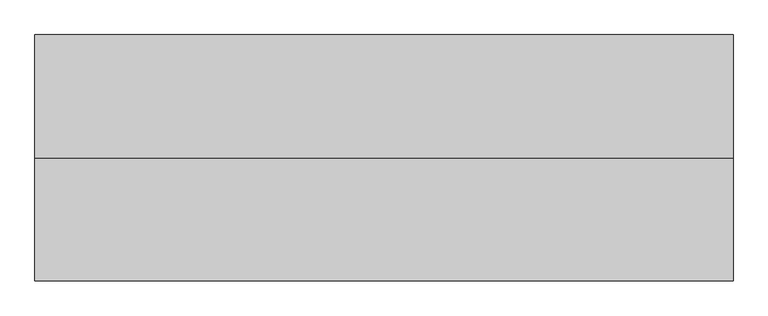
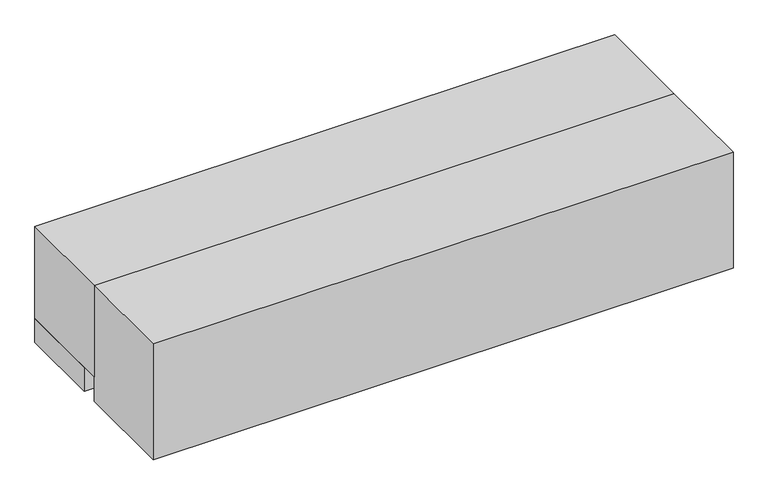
"""IFC4 building model written with IfcOpenShell, lengths in millimetres: proxy geometry, Exposed_Low_Boy_Fan_Coil_Unit Fan_-_LXA_-_IEC_-_4-Pipe_LH_2022 : Size 06 - 277v/60Hz/1Ph - 2/1 Coil."""

from ifc_helpers import new_model, si_unit, point, frame, frame_2d, origin, origin_with_axes, place, context, project, spatial, polyline, circle_curve, trimmed, segment, composite_curve, outline, extrude, faceted_brep, source, transform, mapped, element, save


def mechanical_equipment_0564a80a(model_context):
    return source(origin(), model_context, "Body", "SolidModel", [
        faceted_brep([(1816.1, -266.7, 114.3), (1638.3, -266.7, 114.3), (1638.3, -520.7, 114.3), (1816.1, -520.7, 114.3), (1641.475, -269.875, 114.3), (1812.925, -269.875, 114.3), (1812.925, -517.525, 114.3), (1641.475, -517.525, 114.3), (1816.1, -266.7, 88.9), (1816.1, -520.7, 88.9), (1638.3, -520.7, 88.9), (1638.3, -266.7, 88.9), (1812.925, -269.875, 92.0747888), (1641.475, -269.875, 92.0747888), (1641.475, -517.525, 92.0747888), (1812.925, -517.525, 92.0747888)], [[[0, 1, 2, 3], [4, 5, 6, 7]], [[8, 9, 10, 11]], [[1, 0, 8, 11]], [[2, 1, 11, 10]], [[3, 2, 10, 9]], [[0, 3, 9, 8]], [[12, 13, 14, 15]], [[13, 12, 5, 4]], [[14, 13, 4, 7]], [[15, 14, 7, 6]], [[12, 15, 6, 5]]]),
        extrude(outline(composite_curve([segment(trimmed(circle_curve(frame_2d((1727.2, -393.7)), 9.525), [point((1717.675, -393.7))], [point((1736.725, -393.7))], False, "CARTESIAN"), True, "CONTINUOUS"), segment(trimmed(circle_curve(frame_2d((1727.2, -393.7)), 9.525), [point((1736.725, -393.7))], [point((1717.675, -393.7))], False, "CARTESIAN"), True, "CONTINUOUS")], self_intersect=False)), frame((0.0, 0.0, 63.5), z_axis=(0.0, 0.0, 1.0), x_axis=(1.0, 0.0, 0.0)), (0.0, 0.0, 1.0), 25.4),
        extrude(outline(polyline([(222.6730703, 1763.7868862), (212.725, 1795.9602728), (354.8959244, 1795.9602728), (331.8739183, 1763.7868862), (222.6730703, 1763.7868862)])), frame((0.0, -546.1, 0.0), z_axis=(0.0, 1.0, 0.0), x_axis=(0.0, 0.0, 1.0)), (0.0, 0.0, 1.0), 3.175),
        extrude(outline(polyline([(301.6723557, 1802.7186058), (298.4699632, 1828.8), (327.6988042, 1828.8), (335.7632193, 1802.7186058), (301.6723557, 1802.7186058)])), frame((0.0, -546.1, 0.0), z_axis=(0.0, 1.0, 0.0), x_axis=(0.0, 0.0, 1.0)), (0.0, 0.0, 1.0), 3.175),
        extrude(outline(polyline([(249.8088288, 1828.8), (246.1433279, 1802.7186058), (212.725, 1802.7186058), (221.3592372, 1828.8), (249.8088288, 1828.8)])), frame((0.0, -546.1, 0.0), z_axis=(0.0, 1.0, 0.0), x_axis=(0.0, 0.0, 1.0)), (0.0, 0.0, 1.0), 3.175),
        extrude(outline(polyline([(289.1239903, 1828.8), (291.4058166, 1802.7186058), (255.4682681, 1802.7186058), (258.2095331, 1828.8), (289.1239903, 1828.8)])), frame((0.0, -546.1, 0.0), z_axis=(0.0, 1.0, 0.0), x_axis=(0.0, 0.0, 1.0)), (0.0, 0.0, 1.0), 3.175),
        faceted_brep([(1879.6, -238.125, 365.125), (152.4, -238.125, 365.125), (152.4, -542.925, 365.125), (1879.6, -542.925, 365.125), (1879.6, -238.125, 76.2), (1879.6, -542.925, 76.2), (152.4, -542.925, 76.2), (152.4, -238.125, 76.2), (165.1, -238.125, 76.2), (165.1, -517.525, 76.2), (393.7, -517.525, 76.2), (393.7, -238.125, 76.2), (1638.3, -238.125, 76.2), (1638.3, -517.525, 76.2), (1866.9, -517.525, 76.2), (1866.9, -238.125, 76.2), (1866.9, -238.125, 339.725), (1638.3, -238.125, 339.725), (393.7, -238.125, 339.725), (165.1, -238.125, 339.725), (1866.9, -517.525, 339.725), (1638.3, -517.525, 339.725), (393.7, -517.525, 339.725), (165.1, -517.525, 339.725)], [[[0, 1, 2, 3]], [[4, 5, 6, 7, 8, 9, 10, 11, 12, 13, 14, 15]], [[1, 0, 4, 15, 16, 17, 12, 11, 18, 19, 8, 7]], [[2, 1, 7, 6]], [[3, 2, 6, 5]], [[0, 3, 5, 4]], [[16, 20, 21, 17]], [[18, 22, 23, 19]], [[17, 21, 13, 12]], [[21, 20, 14, 13]], [[20, 16, 15, 14]], [[19, 23, 9, 8]], [[23, 22, 10, 9]], [[22, 18, 11, 10]]]),
        extrude(outline(polyline([(1638.3, -492.125), (393.7, -492.125), (393.7, -244.475), (1638.3, -244.475), (1638.3, -492.125)])), origin_with_axes(), (0.0, 0.0, 1.0), 6.35),
        extrude(outline(polyline([(1638.3, -238.125), (1638.3, -244.475), (393.7, -244.475), (393.7, -238.125), (1638.3, -238.125)])), origin_with_axes(), (0.0, 0.0, 1.0), 76.2),
        extrude(outline(polyline([(1879.6, -238.125), (1879.6, -492.125), (1638.3, -492.125), (1638.3, -238.125), (1879.6, -238.125)]), holes=[polyline([(1651.0, -485.775), (1866.9, -485.775), (1866.9, -244.475), (1651.0, -244.475), (1651.0, -485.775)])]), origin_with_axes(), (0.0, 0.0, 1.0), 76.2),
        extrude(outline(polyline([(393.7, -238.125), (393.7, -492.125), (152.4, -492.125), (152.4, -238.125), (393.7, -238.125)]), holes=[polyline([(381.0, -244.475), (165.1, -244.475), (165.1, -485.775), (381.0, -485.775), (381.0, -244.475)])]), origin_with_axes(), (0.0, 0.0, 1.0), 76.2),
        extrude(outline(composite_curve([segment(trimmed(circle_curve(frame_2d((-485.775, 268.2875)), 7.9375), [point((-485.775, 260.35))], [point((-485.775, 276.225))], False, "CARTESIAN"), True, "CONTINUOUS"), segment(trimmed(circle_curve(frame_2d((-485.775, 268.2875)), 7.9375), [point((-485.775, 276.225))], [point((-485.775, 260.35))], False, "CARTESIAN"), True, "CONTINUOUS")], self_intersect=False)), frame((1638.3, 0.0, 0.0), z_axis=(1.0, 0.0, 0.0), x_axis=(0.0, 1.0, 0.0)), (0.0, 0.0, 1.0), 50.8),
        extrude(outline(composite_curve([segment(trimmed(circle_curve(frame_2d((-485.775, 227.0125)), 7.9375), [point((-485.775, 219.075))], [point((-485.775, 234.95))], False, "CARTESIAN"), True, "CONTINUOUS"), segment(trimmed(circle_curve(frame_2d((-485.775, 227.0125)), 7.9375), [point((-485.775, 234.95))], [point((-485.775, 219.075))], False, "CARTESIAN"), True, "CONTINUOUS")], self_intersect=False)), frame((1638.3, 0.0, 0.0), z_axis=(1.0, 0.0, 0.0), x_axis=(0.0, 1.0, 0.0)), (0.0, 0.0, 1.0), 50.8),
        extrude(outline(composite_curve([segment(trimmed(circle_curve(frame_2d((-269.875, 273.05)), 7.9375), [point((-269.875, 265.1125))], [point((-269.875, 280.9875))], False, "CARTESIAN"), True, "CONTINUOUS"), segment(trimmed(circle_curve(frame_2d((-269.875, 273.05)), 7.9375), [point((-269.875, 280.9875))], [point((-269.875, 265.1125))], False, "CARTESIAN"), True, "CONTINUOUS")], self_intersect=False)), frame((1638.3, 0.0, 0.0), z_axis=(1.0, 0.0, 0.0), x_axis=(0.0, 1.0, 0.0)), (0.0, 0.0, 1.0), 50.8),
        extrude(outline(composite_curve([segment(trimmed(circle_curve(frame_2d((-271.4625, 314.325)), 7.9375), [point((-271.4625, 306.3875))], [point((-271.4625, 322.2625))], False, "CARTESIAN"), True, "CONTINUOUS"), segment(trimmed(circle_curve(frame_2d((-271.4625, 314.325)), 7.9375), [point((-271.4625, 322.2625))], [point((-271.4625, 306.3875))], False, "CARTESIAN"), True, "CONTINUOUS")], self_intersect=False)), frame((1638.3, 0.0, 0.0), z_axis=(1.0, 0.0, 0.0), x_axis=(0.0, 1.0, 0.0)), (0.0, 0.0, 1.0), 50.8),
        extrude(outline(polyline([(1879.6, -847.725), (152.4, -847.725), (152.4, -542.925), (1879.6, -542.925), (1879.6, -847.725)])), origin_with_axes(), (0.0, 0.0, 1.0), 365.125),
    ])


if __name__ == "__main__":
    model = new_model("IFC4")
    model_context = context("Model", 3, world=origin())
    ifc_project = project(units=[si_unit("LENGTHUNIT", "METRE", prefix="MILLI")], contexts=[model_context])
    site = spatial("IfcSite", under=ifc_project)
    building = spatial("IfcBuilding", under=site)
    placement = place(None, origin())
    mechanical_equipment_shape = mechanical_equipment_0564a80a(model_context)
    element("IfcBuildingElementProxy", 1, Name="Exposed_Low_Boy_Fan_Coil_Unit Fan_-_LXA_-_IEC_-_4-Pipe_LH_2022 : Size 06 - 277v/60Hz/1Ph - 2/1 Coil", ObjectType="Exposed_Low_Boy_Fan_Coil_Unit Fan_-_LXA_-_IEC_-_4-Pipe_LH_2022 : Size 06 - 277v/60Hz/1Ph - 2/1 Coil", at=placement, inside=building, context=model_context, shape_type="MappedRepresentation", body=[
        mapped(mechanical_equipment_shape, transform((0.0, 0.0, 0.0), x_axis=(1.0, 0.0, 0.0), y_axis=(0.0, 1.0, 0.0), z_axis=(0.0, 0.0, 1.0))),
    ])
    save(model, "model.ifc")
